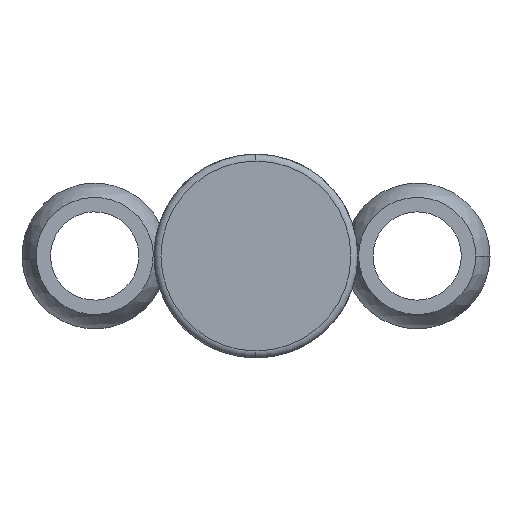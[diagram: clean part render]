
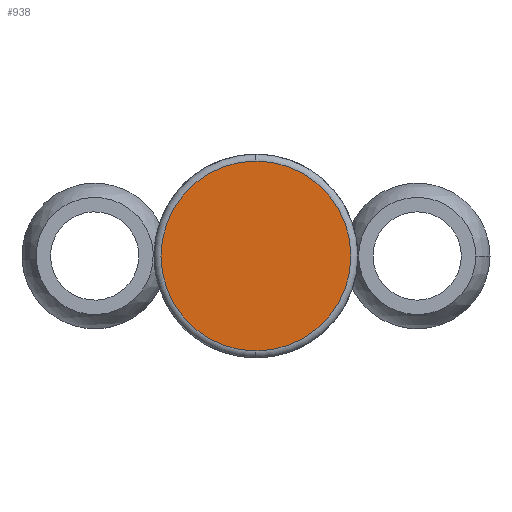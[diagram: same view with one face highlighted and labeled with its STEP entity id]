
A CAD part, front view. The second image highlights one B-rep face of the part: STEP entity #938.
In plain terms, the highlighted planar face has unit normal (0, -1, 0).
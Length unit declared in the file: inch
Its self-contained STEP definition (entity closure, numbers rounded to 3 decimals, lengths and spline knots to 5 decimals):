
#3 = DIRECTION ( 'NONE',  ( 0., -1., 0. ) ) ;
#31 = CARTESIAN_POINT ( 'NONE',  ( 0., -1.5, 0.4075 ) ) ;
#165 = EDGE_LOOP ( 'NONE', ( #629, #1074 ) ) ;
#202 = DIRECTION ( 'NONE',  ( 0., 0., 1. ) ) ;
#240 = DIRECTION ( 'NONE',  ( 0., 1., 0. ) ) ;
#427 = CARTESIAN_POINT ( 'NONE',  ( 0., -1.5, -0.4075 ) ) ;
#523 = AXIS2_PLACEMENT_3D ( 'NONE', #669, #240, #784 ) ;
#568 = DIRECTION ( 'NONE',  ( 0., 0., 1. ) ) ;
#582 = CARTESIAN_POINT ( 'NONE',  ( 0., -1.5, 0. ) ) ;
#629 = ORIENTED_EDGE ( 'NONE', *, *, #706, .T. ) ;
#641 = FACE_OUTER_BOUND ( 'NONE', #165, .T. ) ;
#652 = PLANE ( 'NONE',  #523 ) ;
#662 = AXIS2_PLACEMENT_3D ( 'NONE', #582, #1147, #568 ) ;
#669 = CARTESIAN_POINT ( 'NONE',  ( 0., -1.5, 0. ) ) ;
#706 = EDGE_CURVE ( 'NONE', #877, #766, #865, .T. ) ;
#766 = VERTEX_POINT ( 'NONE', #427 ) ;
#784 = DIRECTION ( 'NONE',  ( 0., 0., 1. ) ) ;
#808 = CARTESIAN_POINT ( 'NONE',  ( 0., -1.5, 0. ) ) ;
#865 = CIRCLE ( 'NONE', #1148, 0.4075 ) ;
#877 = VERTEX_POINT ( 'NONE', #31 ) ;
#938 = ADVANCED_FACE ( 'NONE', ( #641 ), #652, .F. ) ;
#1027 = CIRCLE ( 'NONE', #662, 0.4075 ) ;
#1048 = EDGE_CURVE ( 'NONE', #766, #877, #1027, .T. ) ;
#1074 = ORIENTED_EDGE ( 'NONE', *, *, #1048, .T. ) ;
#1147 = DIRECTION ( 'NONE',  ( 0., -1., 0. ) ) ;
#1148 = AXIS2_PLACEMENT_3D ( 'NONE', #808, #3, #202 ) ;
